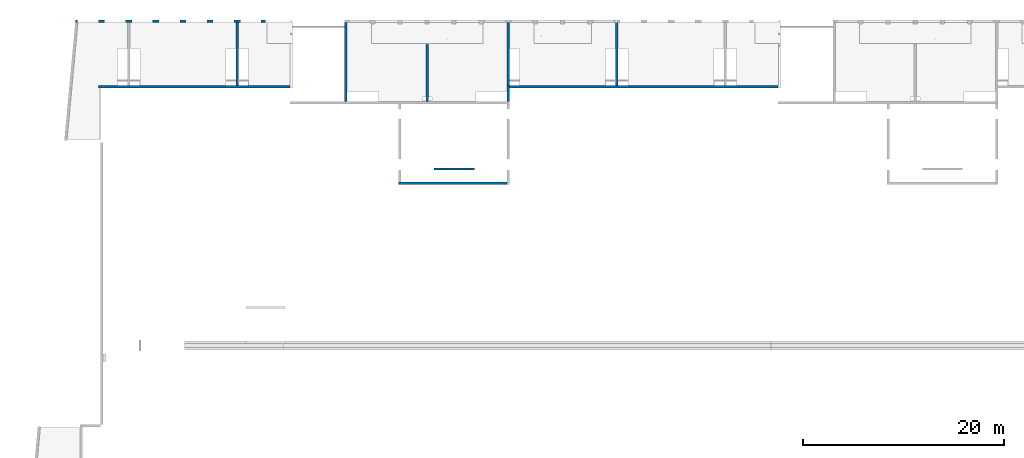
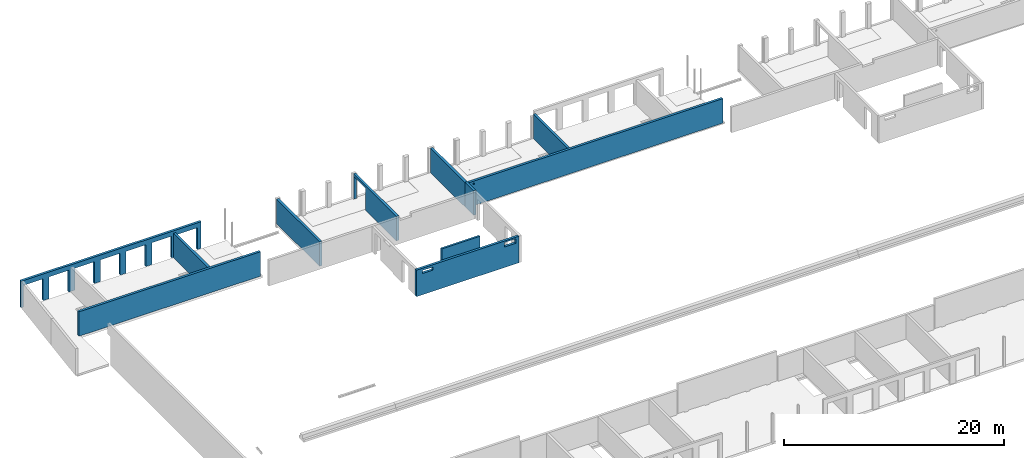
# One storey, part 15 of 22: 11 walls, 11 openings.
"""IFC2X3 building model written with IfcOpenShell, lengths in millimetres."""

from ifc_helpers import new_model, entity, si_unit, converted_unit, derived_unit, direction, frame, frame_2d, origin, origin_2d_with_axis, place, context, subcontext, project, spatial, polyline, rectangle, circle, outline, extrude, clip, bounded_halfspace, material, layer, layer_set, layer_usage, type_object, element, save


model = new_model("IFC2X3")

# Units and contexts
model_context = context("Model", 3, precision=0.01, world=origin(), true_north=direction((6.12303176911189e-17, 1.0)))
body_context = subcontext(model_context, "Body", "Model", "MODEL_VIEW")
ifc_project = project(units=[si_unit("LENGTHUNIT", "METRE", prefix="MILLI"), si_unit("AREAUNIT", "SQUARE_METRE"), si_unit("VOLUMEUNIT", "CUBIC_METRE"), converted_unit("PLANEANGLEUNIT", "DEGREE", entity("IfcRatioMeasure", 0.0174532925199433), si_unit("PLANEANGLEUNIT", "RADIAN"), dimensions=[0, 0, 0, 0, 0, 0, 0]), si_unit("MASSUNIT", "GRAM", prefix="KILO"), derived_unit("MASSDENSITYUNIT", [(si_unit("MASSUNIT", "GRAM", prefix="KILO"), 1), (si_unit("LENGTHUNIT", "METRE"), -3)]), si_unit("TIMEUNIT", "SECOND"), si_unit("FREQUENCYUNIT", "HERTZ"), si_unit("THERMODYNAMICTEMPERATUREUNIT", "DEGREE_CELSIUS"), derived_unit("THERMALTRANSMITTANCEUNIT", [(si_unit("MASSUNIT", "GRAM", prefix="KILO"), 1), (si_unit("THERMODYNAMICTEMPERATUREUNIT", "KELVIN"), -1), (si_unit("TIMEUNIT", "SECOND"), -3)]), derived_unit("VOLUMETRICFLOWRATEUNIT", [(si_unit("LENGTHUNIT", "METRE"), 3), (si_unit("TIMEUNIT", "SECOND"), -1)]), si_unit("ELECTRICCURRENTUNIT", "AMPERE"), si_unit("ELECTRICVOLTAGEUNIT", "VOLT"), si_unit("POWERUNIT", "WATT"), si_unit("FORCEUNIT", "NEWTON", prefix="KILO"), si_unit("ILLUMINANCEUNIT", "LUX"), si_unit("LUMINOUSFLUXUNIT", "LUMEN"), si_unit("LUMINOUSINTENSITYUNIT", "CANDELA"), derived_unit("USERDEFINED", [(si_unit("MASSUNIT", "GRAM", prefix="KILO"), -1), (si_unit("LENGTHUNIT", "METRE"), -2), (si_unit("TIMEUNIT", "SECOND"), 3), (si_unit("LUMINOUSFLUXUNIT", "LUMEN"), 1)]), derived_unit("LINEARVELOCITYUNIT", [(si_unit("LENGTHUNIT", "METRE"), 1), (si_unit("TIMEUNIT", "SECOND"), -1)]), si_unit("PRESSUREUNIT", "PASCAL"), derived_unit("USERDEFINED", [(si_unit("LENGTHUNIT", "METRE"), -2), (si_unit("MASSUNIT", "GRAM", prefix="KILO"), 1), (si_unit("TIMEUNIT", "SECOND"), -2)])], contexts=[model_context])

# Site, building, storey
site_placement = place(None, origin())
site = spatial("IfcSite", under=ifc_project, at=site_placement, Name="Default", CompositionType="ELEMENT")
building_placement = place(site_placement, origin())
building = spatial("IfcBuilding", under=site, at=building_placement, Name="niet gebruiken", CompositionType="ELEMENT")
storey_placement = place(building_placement, frame((0.0, 0.0, 9630.0)))
storey = spatial("IfcBuildingStorey", under=building, at=storey_placement, Name="03 derde verdieping", CompositionType="ELEMENT", Elevation=9630.00000000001)

# Walls
ifc_material_1 = material(Name="NLRS_f2_beton ihwg")
ifc_layer_1 = layer(ifc_material_1, 250.0)
ifc_layer_set_1 = layer_set([ifc_layer_1], Name="Basic Wall:NLRS_22.21_WA_beton ihwg d=250_gen")
ifc_layer_usage_1 = layer_usage(ifc_layer_set_1, "AXIS2", "NEGATIVE", 125.0)
wall_type_1 = type_object("IfcWallType", Name="Basic Wall:NLRS_22.21_WA_beton ihwg d=250_gen", PredefinedType="STANDARD", material=ifc_layer_set_1)
wall_1_placement = place(storey_placement, frame((21600.0, 46746.0, -90.0), z_axis=(0.0, 0.0, 1.0), x_axis=(0.0, 1.0, 0.0)))
element("IfcWallStandardCase", 1, at=wall_1_placement, inside=storey, type_object=wall_type_1, material=ifc_layer_usage_1, Name="Basic Wall:NLRS_22.21_WA_beton ihwg d=250_gen", ObjectType="Basic Wall:NLRS_22.21_WA_beton ihwg d=250_gen", context=body_context, shape_type="SweptSolid", body=[
    extrude(rectangle(XDim=6240.00000000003, YDim=250.000000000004, at=frame_2d((3120.00000000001, 1.06581410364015e-12), x_axis=(-1.0, 0.0))), origin(), (0.0, 0.0, 1.0), 2720.0),
])
ifc_layer_usage_2 = layer_usage(ifc_layer_set_1, "AXIS2", "NEGATIVE", 125.0)
wall_2_placement = place(storey_placement, frame((26850.0, 46621.0, -90.0), z_axis=(0.0, 0.0, 1.0), x_axis=(-1.0, 0.0, 0.0)))
element("IfcWallStandardCase", 2, at=wall_2_placement, inside=storey, type_object=wall_type_1, material=ifc_layer_usage_2, Name="Basic Wall:NLRS_22.21_WA_beton ihwg d=250_gen", ObjectType="Basic Wall:NLRS_22.21_WA_beton ihwg d=250_gen", context=body_context, shape_type="SweptSolid", body=[
    extrude(rectangle(XDim=19065.0000000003, YDim=249.999999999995, at=frame_2d((9532.50000000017, 0.0), x_axis=(-1.0, 0.0))), origin(), (0.0, 0.0, 1.0), 2720.0),
])

# Wall, opening
ifc_layer_usage_3 = layer_usage(ifc_layer_set_1, "AXIS2", "NEGATIVE", 125.0)
wall_3_placement = place(storey_placement, frame((75450.0, 46621.0, -90.0), z_axis=(0.0, 0.0, 1.0), x_axis=(-1.0, 0.0, 0.0)))
wall_3 = element("IfcWallStandardCase", 3, at=wall_3_placement, inside=storey, type_object=wall_type_1, material=ifc_layer_usage_3, Name="Basic Wall:NLRS_22.21_WA_beton ihwg d=250_gen", ObjectType="Basic Wall:NLRS_22.21_WA_beton ihwg d=250_gen", context=body_context, shape_type="Clipping", body=[
    clip(extrude(rectangle(XDim=26725.0, YDim=249.999999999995, at=frame_2d((13362.5, -9.87654402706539e-13), x_axis=(-1.0, 0.0))), origin(), (0.0, 0.0, 1.0), 2720.0), bounded_halfspace(frame((26725.0, -125.0, 0.0), z_axis=(0.0, 0.0, 1.0), x_axis=(0.0, -1.0, 0.0)), True, frame((26725.0, -125.0, 0.0), z_axis=(0.0, 0.0, 1.0), x_axis=(0.0, -1.0, 0.0)), polyline([(0.0, 0.0), (-250.0, 0.0), (-250.0, -26725.0), (0.0, -26725.0), (0.0, -22570.0), (0.0, -21600.0), (0.0, -21350.0), (0.0, -20380.0), (0.0, -11770.0), (0.0, -10800.0), (0.0, -10550.0), (0.0, -9580.0), (0.0, -970.0), (0.0, 0.0)]))),
])
opening_1_placement = place(wall_3_placement, origin())
element("IfcOpeningElement", 4, at=opening_1_placement, cuts=wall_3, Name="Basic Wall:NLRS_22.21_WA_beton ihwg d=250_gen", ObjectType="Opening", context=body_context, shape_type="SweptSolid", body=[
    extrude(circle(Radius=100.0, at=origin_2d_with_axis()), frame((26175.0, -125.0, 2430.0), z_axis=(0.0, 1.0, 0.0), x_axis=(-1.0, 0.0, 0.0)), (0.0, 0.0, 1.0), 250.000000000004),
])

# Wall
ifc_layer_usage_4 = layer_usage(ifc_layer_set_1, "AXIS2", "NEGATIVE", 125.0)
wall_4_placement = place(storey_placement, frame((59400.0, 46746.0, -90.0), z_axis=(0.0, 0.0, 1.0), x_axis=(0.0, 1.0, 0.0)))
element("IfcWallStandardCase", 5, at=wall_4_placement, inside=storey, type_object=wall_type_1, material=ifc_layer_usage_4, Name="Basic Wall:NLRS_22.21_WA_beton ihwg d=250_gen", ObjectType="Basic Wall:NLRS_22.21_WA_beton ihwg d=250_gen", context=body_context, shape_type="SweptSolid", body=[
    extrude(rectangle(XDim=6239.99999999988, YDim=249.999999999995, at=frame_2d((3119.99999999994, 1.06581410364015e-12), x_axis=(-1.0, 0.0))), origin(), (0.0, 0.0, 1.0), 2720.0),
])

# Wall, opening
ifc_layer_usage_5 = layer_usage(ifc_layer_set_1, "AXIS2", "NEGATIVE", 125.0)
wall_5_placement = place(storey_placement, frame((40500.0, 45156.0, -90.0), z_axis=(0.0, 0.0, 1.0), x_axis=(0.0, 1.0, 0.0)))
wall_5 = element("IfcWallStandardCase", 6, at=wall_5_placement, inside=storey, type_object=wall_type_1, material=ifc_layer_usage_5, Name="Basic Wall:NLRS_22.21_WA_beton ihwg d=250_gen", ObjectType="Basic Wall:NLRS_22.21_WA_beton ihwg d=250_gen", context=body_context, shape_type="SweptSolid", body=[
    extrude(rectangle(XDim=7850.00000000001, YDim=249.999999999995, at=frame_2d((3925.0, 2.46558329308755e-12), x_axis=(-1.0, 0.0))), origin(), (0.0, 0.0, 1.0), 2720.0),
])
opening_2_placement = place(wall_5_placement, origin())
element("IfcOpeningElement", 7, at=opening_2_placement, cuts=wall_5, Name="Basic Wall:NLRS_22.21_WA_beton ihwg d=250_gen", ObjectType="Opening", context=body_context, shape_type="SweptSolid", body=[
    extrude(rectangle(XDim=2440.0, YDim=2050.0, at=frame_2d((0.0, 5.6843418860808e-13), x_axis=(0.0, 1.0))), frame((6665.0, -1399.0, 1220.0), z_axis=(0.0, 1.0, 0.0), x_axis=(-1.0, 0.0, 0.0)), (0.0, 0.0, 1.0), 3048.0),
])

# Wall, openings
ifc_layer_usage_6 = layer_usage(ifc_layer_set_1, "AXIS2", "NEGATIVE", 125.0)
wall_6_placement = place(storey_placement, frame((48475.0, 36981.0, -310.0), z_axis=(0.0, 0.0, 1.0), x_axis=(-1.0, 0.0, 0.0)))
wall_6 = element("IfcWallStandardCase", 8, at=wall_6_placement, inside=storey, type_object=wall_type_1, material=ifc_layer_usage_6, Name="Basic Wall:NLRS_22.21_WA_beton ihwg d=250_gen", ObjectType="Basic Wall:NLRS_22.21_WA_beton ihwg d=250_gen", context=body_context, shape_type="SweptSolid", body=[
    extrude(rectangle(XDim=10800.0, YDim=250.000000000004, at=frame_2d((5399.99999999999, -5.47117906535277e-13), x_axis=(-1.0, 0.0))), origin(), (0.0, 0.0, 1.0), 2939.99999999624),
])
opening_3_placement = place(wall_6_placement, origin())
element("IfcOpeningElement", 9, at=opening_3_placement, cuts=wall_6, Name="Basic Wall:NLRS_22.21_WA_beton ihwg d=250_gen", ObjectType="Opening", context=body_context, shape_type="SweptSolid", body=[
    extrude(rectangle(XDim=350.000000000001, YDim=1100.0, at=frame_2d((1.08002495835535e-12, 0.0), x_axis=(1.0, 0.0))), frame((9590.0, -125.0, 2515.0), z_axis=(0.0, 1.0, 0.0), x_axis=(0.0, 0.0, -1.0)), (0.0, 0.0, 1.0), 250.000000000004),
])
opening_4_placement = place(wall_6_placement, origin())
element("IfcOpeningElement", 10, at=opening_4_placement, cuts=wall_6, Name="Basic Wall:NLRS_22.21_WA_beton ihwg d=250_gen", ObjectType="Opening", context=body_context, shape_type="SweptSolid", body=[
    extrude(rectangle(XDim=500.000000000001, YDim=1200.0, at=origin_2d_with_axis()), frame((945.0, -125.0, 2525.0), z_axis=(0.0, 1.0, 0.0), x_axis=(0.0, 0.0, -1.0)), (0.0, 0.0, 1.0), 250.000000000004),
])

# Walls
ifc_layer_usage_7 = layer_usage(ifc_layer_set_1, "AXIS2", "NEGATIVE", 125.0)
wall_7_placement = place(storey_placement, frame((48600.0, 46746.0, -90.0), z_axis=(0.0, 0.0, 1.0), x_axis=(0.0, 1.0, 0.0)))
element("IfcWallStandardCase", 11, at=wall_7_placement, inside=storey, type_object=wall_type_1, material=ifc_layer_usage_7, Name="Basic Wall:NLRS_22.21_WA_beton ihwg d=250_gen", ObjectType="Basic Wall:NLRS_22.21_WA_beton ihwg d=250_gen", context=body_context, shape_type="SweptSolid", body=[
    extrude(rectangle(XDim=6259.99999999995, YDim=249.999999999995, at=frame_2d((3129.99999999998, 1.08713038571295e-12), x_axis=(-1.0, 0.0))), origin(), (0.0, 0.0, 1.0), 2719.99999999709),
])
ifc_layer_usage_8 = layer_usage(ifc_layer_set_1, "AXIS2", "NEGATIVE", 125.0)
wall_8_placement = place(storey_placement, frame((48600.0, 45156.0, -90.0), z_axis=(0.0, 0.0, 1.0), x_axis=(0.0, 1.0, 0.0)))
element("IfcWallStandardCase", 12, at=wall_8_placement, inside=storey, type_object=wall_type_1, material=ifc_layer_usage_8, Name="Basic Wall:NLRS_22.21_WA_beton ihwg d=250_gen", ObjectType="Basic Wall:NLRS_22.21_WA_beton ihwg d=250_gen", context=body_context, shape_type="SweptSolid", body=[
    extrude(rectangle(XDim=1590.00000000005, YDim=249.999999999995, at=frame_2d((795.000000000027, 1.37845290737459e-12), x_axis=(-1.0, 0.0))), origin(), (0.0, 0.0, 1.0), 2719.99999999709),
])

# Wall, openings
ifc_material_2 = material(Name="NLRS_f2_beton prefab")
ifc_layer_2 = layer(ifc_material_2, 250.0)
ifc_layer_set_2 = layer_set([ifc_layer_2], Name="Basic Wall:NLRS_21.21_WA_beton prefab d=250_gen")
ifc_layer_usage_9 = layer_usage(ifc_layer_set_2, "AXIS2", "NEGATIVE", 125.0)
wall_type_2 = type_object("IfcWallType", Name="Basic Wall:NLRS_21.21_WA_beton prefab d=250_gen", PredefinedType="STANDARD", material=ifc_layer_set_2)
wall_9_placement = place(storey_placement, frame((5477.63503712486, 53131.0, -70.0)))
wall_9 = element("IfcWallStandardCase", 13, at=wall_9_placement, inside=storey, type_object=wall_type_2, material=ifc_layer_usage_9, Name="Basic Wall:NLRS_21.21_WA_beton prefab d=250_gen", ObjectType="Basic Wall:NLRS_21.21_WA_beton prefab d=250_gen", context=body_context, shape_type="SweptSolid", body=[
    extrude(outline(polyline([(0.0, -125.0), (251.071749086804, -125.0), (18922.3649628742, -125.0), (18922.3649628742, 125.0), (23.1737607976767, 125.0), (0.0, -125.0)])), origin(), (0.0, 0.0, 1.0), 2950.00000000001),
])
opening_5_placement = place(wall_9_placement, origin())
element("IfcOpeningElement", 14, at=opening_5_placement, cuts=wall_9, Name="Basic Wall:NLRS_21.21_WA_beton prefab d=250_gen", ObjectType="Opening", context=body_context, shape_type="SweptSolid", body=[
    extrude(rectangle(XDim=2440.0, YDim=2080.0, at=frame_2d((-1.13686837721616e-12, 0.0), x_axis=(1.0, 0.0))), frame((1272.36496287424, -1649.0, 1200.0), z_axis=(0.0, 1.0, 0.0), x_axis=(0.0, 0.0, 1.0)), (0.0, 0.0, 1.0), 3048.0),
])
opening_6_placement = place(wall_9_placement, origin())
element("IfcOpeningElement", 15, at=opening_6_placement, cuts=wall_9, Name="Basic Wall:NLRS_21.21_WA_beton prefab d=250_gen", ObjectType="Opening", context=body_context, shape_type="SweptSolid", body=[
    extrude(rectangle(XDim=2440.0, YDim=2080.0, at=frame_2d((1.13686837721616e-12, 0.0), x_axis=(1.0, 0.0))), frame((3972.36496287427, -1649.0, 1200.0), z_axis=(0.0, 1.0, 0.0), x_axis=(0.0, 0.0, 1.0)), (0.0, 0.0, 1.0), 3048.0),
])
opening_7_placement = place(wall_9_placement, origin())
element("IfcOpeningElement", 16, at=opening_7_placement, cuts=wall_9, Name="Basic Wall:NLRS_21.21_WA_beton prefab d=250_gen", ObjectType="Opening", context=body_context, shape_type="SweptSolid", body=[
    extrude(rectangle(XDim=2440.0, YDim=2080.0, at=frame_2d((1.13686837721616e-12, 0.0), x_axis=(1.0, 0.0))), frame((6672.36496287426, -1649.0, 1200.0), z_axis=(0.0, 1.0, 0.0), x_axis=(0.0, 0.0, 1.0)), (0.0, 0.0, 1.0), 3048.0),
])
opening_8_placement = place(wall_9_placement, origin())
element("IfcOpeningElement", 17, at=opening_8_placement, cuts=wall_9, Name="Basic Wall:NLRS_21.21_WA_beton prefab d=250_gen", ObjectType="Opening", context=body_context, shape_type="SweptSolid", body=[
    extrude(rectangle(XDim=2440.0, YDim=2080.0, at=frame_2d((1.13686837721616e-12, 0.0), x_axis=(1.0, 0.0))), frame((9372.36496287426, -1649.0, 1200.0), z_axis=(0.0, 1.0, 0.0), x_axis=(0.0, 0.0, 1.0)), (0.0, 0.0, 1.0), 3048.0),
])
opening_9_placement = place(wall_9_placement, origin())
element("IfcOpeningElement", 18, at=opening_9_placement, cuts=wall_9, Name="Basic Wall:NLRS_21.21_WA_beton prefab d=250_gen", ObjectType="Opening", context=body_context, shape_type="SweptSolid", body=[
    extrude(rectangle(XDim=2440.0, YDim=2080.0, at=frame_2d((1.13686837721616e-12, 0.0), x_axis=(1.0, 0.0))), frame((12072.3649628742, -1649.0, 1200.0), z_axis=(0.0, 1.0, 0.0), x_axis=(0.0, 0.0, 1.0)), (0.0, 0.0, 1.0), 3048.0),
])
opening_10_placement = place(wall_9_placement, origin())
element("IfcOpeningElement", 19, at=opening_10_placement, cuts=wall_9, Name="Basic Wall:NLRS_21.21_WA_beton prefab d=250_gen", ObjectType="Opening", context=body_context, shape_type="SweptSolid", body=[
    extrude(rectangle(XDim=2440.0, YDim=2080.0, at=frame_2d((1.13686837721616e-12, -2.1600499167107e-12), x_axis=(1.0, 0.0))), frame((14772.3649628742, -1649.0, 1200.0), z_axis=(0.0, 1.0, 0.0), x_axis=(0.0, 0.0, 1.0)), (0.0, 0.0, 1.0), 3048.0),
])
opening_11_placement = place(wall_9_placement, origin())
element("IfcOpeningElement", 20, at=opening_11_placement, cuts=wall_9, Name="Basic Wall:NLRS_21.21_WA_beton prefab d=250_gen", ObjectType="Opening", context=body_context, shape_type="SweptSolid", body=[
    extrude(rectangle(XDim=2440.0, YDim=2080.0, at=frame_2d((1.13686837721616e-12, 2.1600499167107e-12), x_axis=(1.0, 0.0))), frame((17472.3649628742, -1649.0, 1200.0), z_axis=(0.0, 1.0, 0.0), x_axis=(0.0, 0.0, 1.0)), (0.0, 0.0, 1.0), 3048.0),
])

# Walls
ifc_layer_3 = layer(ifc_material_2, 200.0)
ifc_layer_set_3 = layer_set([ifc_layer_3], Name="Basic Wall:NLRS_22.21_WA_beton prefab d=200_gen")
ifc_layer_usage_10 = layer_usage(ifc_layer_set_3, "AXIS2", "NEGATIVE", 100.0)
wall_type_3 = type_object("IfcWallType", Name="Basic Wall:NLRS_22.21_WA_beton prefab d=200_gen", PredefinedType="STANDARD", material=ifc_layer_set_3)
wall_10_placement = place(storey_placement, frame((45200.0, 38426.0, -290.0), z_axis=(0.0, 0.0, 1.0), x_axis=(-1.0, 0.0, 0.0)))
element("IfcWallStandardCase", 21, at=wall_10_placement, inside=storey, type_object=wall_type_3, material=ifc_layer_usage_10, Name="Basic Wall:NLRS_22.21_WA_beton prefab d=200_gen", ObjectType="Basic Wall:NLRS_22.21_WA_beton prefab d=200_gen", context=body_context, shape_type="SweptSolid", body=[
    extrude(rectangle(XDim=3999.99999999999, YDim=199.999999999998, at=frame_2d((2000.0, 0.0), x_axis=(-1.0, 0.0))), origin(), (0.0, 0.0, 1.0), 3169.99999999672),
])
ifc_layer_4 = layer(ifc_material_1, 250.0)
ifc_layer_set_4 = layer_set([ifc_layer_4], Name="Basic Wall:NLRS_21.21_WA_beton ihwg d=250_gen")
ifc_layer_usage_11 = layer_usage(ifc_layer_set_4, "AXIS2", "NEGATIVE", 125.0)
wall_type_4 = type_object("IfcWallType", Name="Basic Wall:NLRS_21.21_WA_beton ihwg d=250_gen", PredefinedType="STANDARD", material=ifc_layer_set_4)
wall_11_placement = place(storey_placement, frame((32425.0, 45156.0, -90.0), z_axis=(0.0, 0.0, 1.0), x_axis=(0.0, 1.0, 0.0)))
element("IfcWallStandardCase", 22, at=wall_11_placement, inside=storey, type_object=wall_type_4, material=ifc_layer_usage_11, Name="Basic Wall:NLRS_21.21_WA_beton ihwg d=250_gen", ObjectType="Basic Wall:NLRS_21.21_WA_beton ihwg d=250_gen", context=body_context, shape_type="SweptSolid", body=[
    extrude(rectangle(XDim=7849.99999999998, YDim=250.000000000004, at=frame_2d((3924.99999999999, 2.98427949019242e-13), x_axis=(-1.0, 0.0))), origin(), (0.0, 0.0, 1.0), 2720.0),
])

save(model, "model.ifc")
